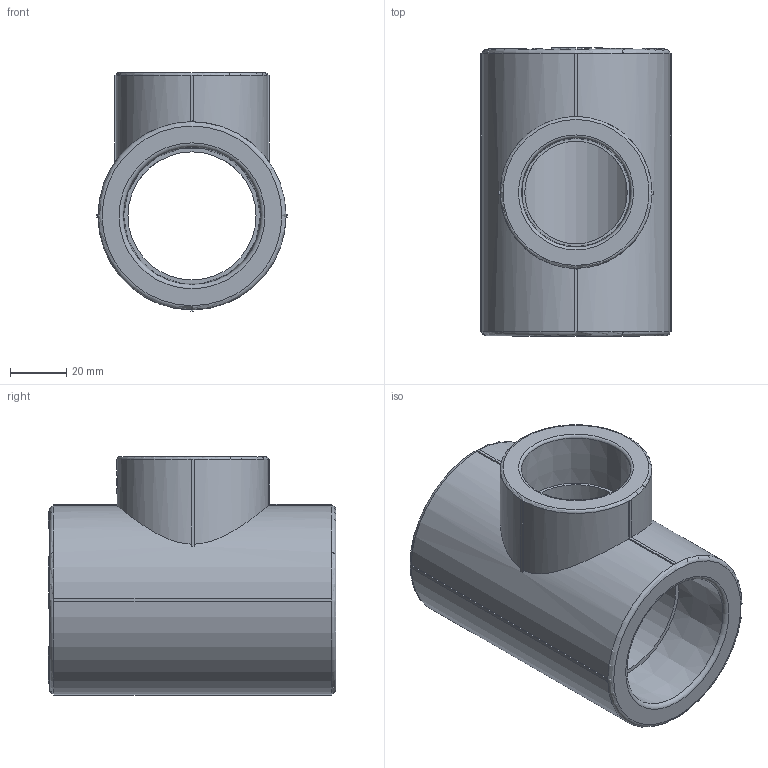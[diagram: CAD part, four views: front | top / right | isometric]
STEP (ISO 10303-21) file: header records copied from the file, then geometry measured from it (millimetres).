
FILE_DESCRIPTION(('STEP AP203'), '1');
FILE_NAME('ÂÐ.752241.066 - VTp.735.0.050040050', '', ('UNSPECIFIED'), ('UNSPECIFIED'), 'C3D Converter', 'C3D Toolkit', '');
FILE_SCHEMA(('CONFIG_CONTROL_DESIGN'));
Length unit declared in the file: millimetre
Products named in the file (1): ВР.752241.066
Bounding box: 68 x 102.5 x 85 mm (x, y, z)
Volume: 194285.2 mm3; surface area: 45784.6 mm2
Topology: 1 solids, 1 shells, 1111 faces, 3116 edges, 2069 vertices
Faces by surface type: extrusion 647, plane 420, cylinder 35, torus 6, cone 3
Full cylindrical faces by diameter (mm): 8 x1, 36.5 x1, 45.6 x1
Entity records: 41302 total; most frequent: CARTESIAN_POINT 16056, ORIENTED_EDGE 6208, DIRECTION 3135, EDGE_CURVE 3104, VECTOR 2115, VERTEX_POINT 2069, B_SPLINE_CURVE_WITH_KNOTS 1948, LINE 1468
